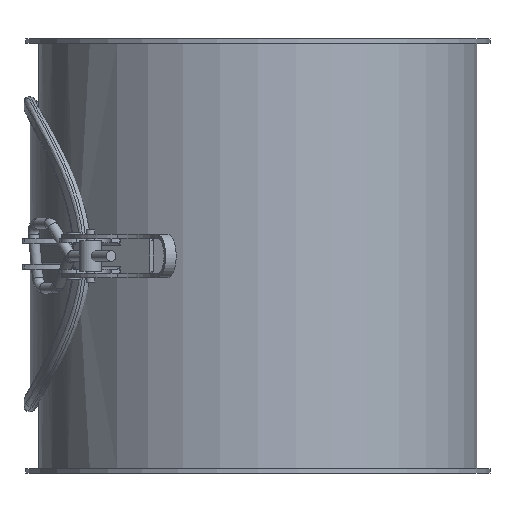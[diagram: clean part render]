
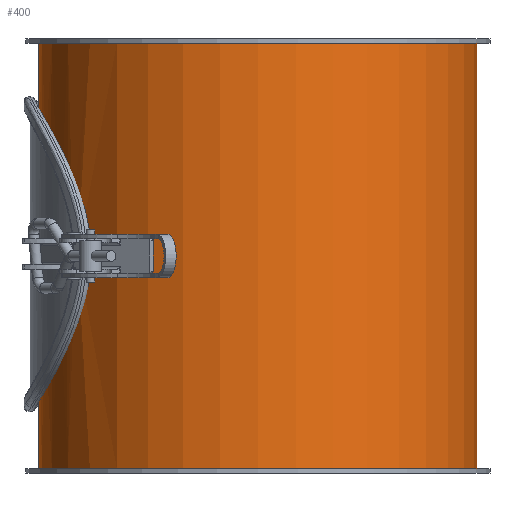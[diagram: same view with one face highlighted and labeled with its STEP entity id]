
A CAD part, front view. The second image highlights one B-rep face of the part: STEP entity #400.
In plain terms, the highlighted cylindrical face has radius 101 mm (diameter 202 mm), a full revolution.
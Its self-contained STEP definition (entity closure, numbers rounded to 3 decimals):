
#143=CARTESIAN_POINT('',(101.,0.,198.0));
#144=VERTEX_POINT('',#143);
#145=CARTESIAN_POINT('',(0.0,0.0,198.0));
#146=DIRECTION('',(0.0,0.0,-1.0));
#147=DIRECTION('',(-1.0,0.0,0.0));
#148=AXIS2_PLACEMENT_3D('',#145,#146,#147);
#149=CIRCLE('',#148,101.);
#150=EDGE_CURVE('',#144,#144,#149,.T.);
#191=CARTESIAN_POINT('',(-101.,0.,2.0));
#192=VERTEX_POINT('',#191);
#193=CARTESIAN_POINT('',(0.0,0.0,2.0));
#194=DIRECTION('',(0.0,0.0,1.0));
#195=DIRECTION('',(-1.0,0.0,0.0));
#196=AXIS2_PLACEMENT_3D('',#193,#194,#195);
#197=CIRCLE('',#196,101.);
#198=EDGE_CURVE('',#192,#192,#197,.T.);
#281=CARTESIAN_POINT('',(-83.035,-57.5,100.));
#282=VERTEX_POINT('',#281);
#283=CARTESIAN_POINT('',(-83.035,-57.5,100.));
#284=CARTESIAN_POINT('',(-83.035,-57.5,96.28));
#285=CARTESIAN_POINT('',(-83.292,-57.134,92.474));
#286=CARTESIAN_POINT('',(-84.302,-55.633,84.972));
#287=CARTESIAN_POINT('',(-85.052,-54.5,81.275));
#288=CARTESIAN_POINT('',(-86.875,-51.544,74.231));
#289=CARTESIAN_POINT('',(-87.946,-49.72,70.877));
#290=CARTESIAN_POINT('',(-90.185,-45.533,64.688));
#291=CARTESIAN_POINT('',(-91.35,-43.17,61.853));
#292=CARTESIAN_POINT('',(-93.554,-38.16,56.842));
#293=CARTESIAN_POINT('',(-94.675,-35.331,54.481));
#294=CARTESIAN_POINT('',(-96.76,-29.14,50.29));
#295=CARTESIAN_POINT('',(-97.722,-25.777,48.459));
#296=CARTESIAN_POINT('',(-99.317,-18.715,45.496));
#297=CARTESIAN_POINT('',(-99.95,-15.009,44.362));
#298=CARTESIAN_POINT('',(-100.792,-7.502,42.863));
#299=CARTESIAN_POINT('',(-101.,-3.701,42.5));
#300=CARTESIAN_POINT('',(-101.,3.701,42.5));
#301=CARTESIAN_POINT('',(-100.792,7.502,42.863));
#302=CARTESIAN_POINT('',(-99.95,15.009,44.362));
#303=CARTESIAN_POINT('',(-99.317,18.715,45.496));
#304=CARTESIAN_POINT('',(-97.722,25.777,48.459));
#305=CARTESIAN_POINT('',(-96.76,29.14,50.29));
#306=CARTESIAN_POINT('',(-94.675,35.331,54.481));
#307=CARTESIAN_POINT('',(-93.554,38.16,56.842));
#308=CARTESIAN_POINT('',(-91.35,43.17,61.853));
#309=CARTESIAN_POINT('',(-90.185,45.533,64.688));
#310=CARTESIAN_POINT('',(-87.946,49.72,70.877));
#311=CARTESIAN_POINT('',(-86.875,51.544,74.231));
#312=CARTESIAN_POINT('',(-85.052,54.5,81.275));
#313=CARTESIAN_POINT('',(-84.302,55.633,84.972));
#314=CARTESIAN_POINT('',(-83.292,57.134,92.474));
#315=CARTESIAN_POINT('',(-83.035,57.5,96.28));
#316=CARTESIAN_POINT('',(-83.035,57.5,103.72));
#317=CARTESIAN_POINT('',(-83.292,57.134,107.526));
#318=CARTESIAN_POINT('',(-84.302,55.633,115.028));
#319=CARTESIAN_POINT('',(-85.052,54.5,118.725));
#320=CARTESIAN_POINT('',(-86.875,51.544,125.769));
#321=CARTESIAN_POINT('',(-87.946,49.72,129.123));
#322=CARTESIAN_POINT('',(-90.185,45.533,135.312));
#323=CARTESIAN_POINT('',(-91.35,43.17,138.147));
#324=CARTESIAN_POINT('',(-93.554,38.16,143.158));
#325=CARTESIAN_POINT('',(-94.675,35.331,145.519));
#326=CARTESIAN_POINT('',(-96.76,29.14,149.71));
#327=CARTESIAN_POINT('',(-97.722,25.777,151.541));
#328=CARTESIAN_POINT('',(-99.317,18.715,154.504));
#329=CARTESIAN_POINT('',(-99.95,15.009,155.638));
#330=CARTESIAN_POINT('',(-100.792,7.502,157.137));
#331=CARTESIAN_POINT('',(-101.,3.701,157.5));
#332=CARTESIAN_POINT('',(-101.,-3.701,157.5));
#333=CARTESIAN_POINT('',(-100.792,-7.502,157.137));
#334=CARTESIAN_POINT('',(-99.95,-15.009,155.638));
#335=CARTESIAN_POINT('',(-99.317,-18.715,154.504));
#336=CARTESIAN_POINT('',(-97.722,-25.777,151.541));
#337=CARTESIAN_POINT('',(-96.76,-29.14,149.71));
#338=CARTESIAN_POINT('',(-94.675,-35.331,145.519));
#339=CARTESIAN_POINT('',(-93.554,-38.16,143.158));
#340=CARTESIAN_POINT('',(-91.35,-43.17,138.147));
#341=CARTESIAN_POINT('',(-90.185,-45.533,135.312));
#342=CARTESIAN_POINT('',(-87.946,-49.72,129.123));
#343=CARTESIAN_POINT('',(-86.875,-51.544,125.769));
#344=CARTESIAN_POINT('',(-85.052,-54.5,118.725));
#345=CARTESIAN_POINT('',(-84.302,-55.633,115.028));
#346=CARTESIAN_POINT('',(-83.292,-57.134,107.526));
#347=CARTESIAN_POINT('',(-83.035,-57.5,103.72));
#348=CARTESIAN_POINT('',(-83.035,-57.5,100.0));
#349=B_SPLINE_CURVE_WITH_KNOTS('',3,(#283,#284,#285,#286,#287,#288,#289,#290,#291,#292,#293,#294,#295,#296,#297,#298,#299,#300,#301,#302,#303,#304,#305,#306,#307,#308,#309,#310,#311,#312,#313,#314,#315,#316,#317,#318,#319,#320,#321,#322,#323,#324,#325,#326,#327,#328,#329,#330,#331,#332,#333,#334,#335,#336,#337,#338,#339,#340,#341,#342,#343,#344,#345,#346,#347,#348),.UNSPECIFIED.,.T.,.U.,(4,2,2,2,2,2,2,2,2,2,2,2,2,2,2,2,2,2,2,2,2,2,2,2,2,2,2,2,2,2,2,2,4),(0.0,1.116,2.232,3.348,4.463,5.574,6.684,7.794,8.905,10.015,11.125,12.236,13.346,14.462,15.578,16.693,17.809,18.925,20.041,21.157,22.273,23.383,24.493,25.604,26.714,27.824,28.935,30.045,31.155,32.271,33.387,34.503,35.619),.UNSPECIFIED.);
#350=EDGE_CURVE('',#282,#282,#349,.T.);
#386=CARTESIAN_POINT('',(0.0,0.0,0.0));
#387=DIRECTION('',(0.0,0.0,1.0));
#388=DIRECTION('',(-1.0,0.0,0.0));
#389=AXIS2_PLACEMENT_3D('',#386,#387,#388);
#390=CYLINDRICAL_SURFACE('',#389,101.);
#391=ORIENTED_EDGE('',*,*,#150,.T.);
#392=EDGE_LOOP('',(#391));
#393=FACE_OUTER_BOUND('',#392,.T.);
#394=ORIENTED_EDGE('',*,*,#198,.T.);
#395=EDGE_LOOP('',(#394));
#396=FACE_BOUND('',#395,.T.);
#397=ORIENTED_EDGE('',*,*,#350,.T.);
#398=EDGE_LOOP('',(#397));
#399=FACE_BOUND('',#398,.T.);
#400=ADVANCED_FACE('',(#393,#396,#399),#390,.T.);
